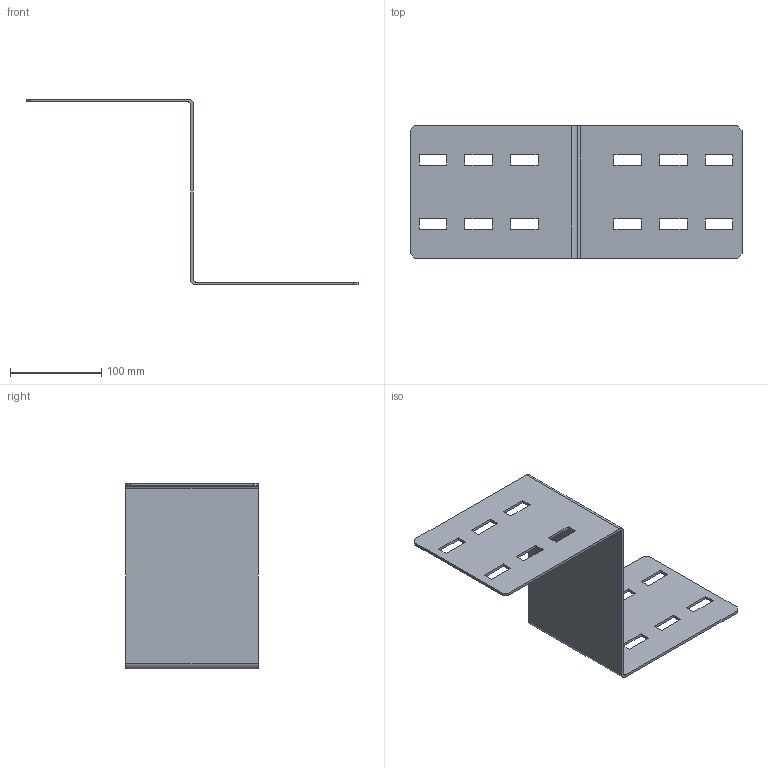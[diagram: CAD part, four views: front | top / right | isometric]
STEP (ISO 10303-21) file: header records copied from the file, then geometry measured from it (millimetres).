
FILE_DESCRIPTION(('Creo Elements/Direct Modeling STEP Export'),'2;1');
FILE_NAME('WPR15-20-HDG.stp','2016-08-24T11:54:07',(''),(''),'PTC Creo Elements/Direct Modeling STEP processor for AP214 (Solid Model)','PTC Creo Elements/Direct Modeling 19.0C 15-Aug-2015 (C) Parametric Technology GmbH','');
FILE_SCHEMA(('AUTOMOTIVE_DESIGN { 1 0 10303 214 1 1 1 1 }'));
Length unit declared in the file: millimetre
Products named in the file (1): WPR15-20-HDG
Bounding box: 363 x 145 x 203 mm (x, y, z)
Volume: 230654.7 mm3; surface area: 160947.5 mm2
Topology: 1 solids, 1 shells, 66 faces, 192 edges, 128 vertices
Faces by surface type: plane 62, cylinder 4
Entity records: 2214 total; most frequent: CARTESIAN_POINT 387, ORIENTED_EDGE 384, DIRECTION 334, EDGE_CURVE 192, VECTOR 184, LINE 184, VERTEX_POINT 128, EDGE_LOOP 90
